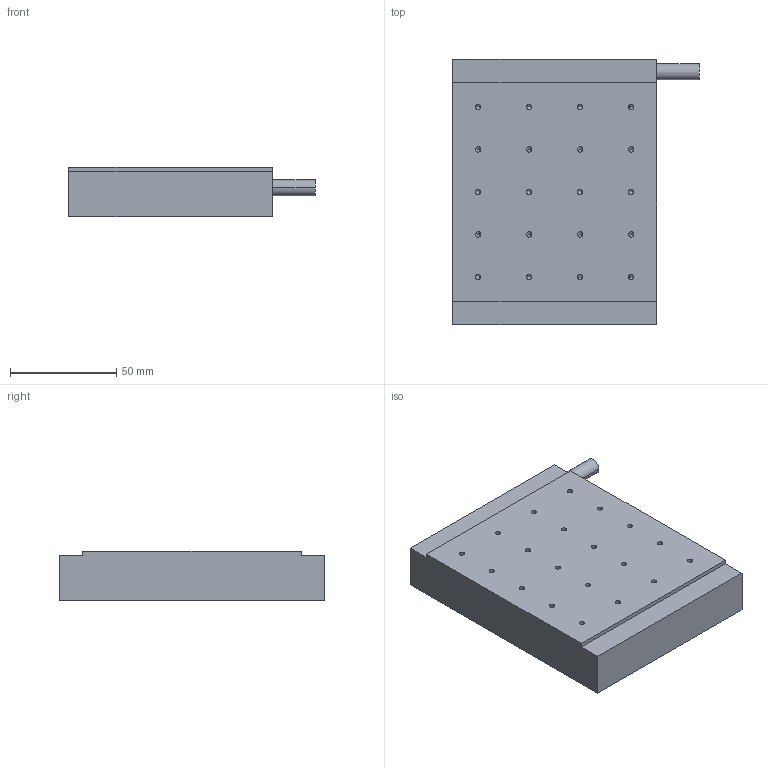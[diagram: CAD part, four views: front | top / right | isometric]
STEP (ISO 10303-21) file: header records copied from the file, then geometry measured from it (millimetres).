
FILE_DESCRIPTION (( 'STEP AP214' ), '1' );
FILE_NAME ('B-CJM100B-02.STEP', '2025-09-05T11:29:53', ( '' ), ( '' ), 'SwSTEP 2.0', 'SolidWorks 2016', '' );
FILE_SCHEMA (( 'AUTOMOTIVE_DESIGN' ));
Length unit declared in the file: millimetre
Products named in the file (1): B-CJM100B-02
Bounding box: 116 x 125 x 23.2 mm (x, y, z)
Volume: 274309.2 mm3; surface area: 35838.6 mm2
Topology: 1 solids, 1 shells, 117 faces, 286 edges, 148 vertices
Faces by surface type: cone 56, cylinder 50, plane 11
Entity records: 3582 total; most frequent: DIRECTION 582, CARTESIAN_POINT 504, ORIENTED_EDGE 476, EDGE_CURVE 238, AXIS2_PLACEMENT_3D 226, VERTEX_POINT 148, EDGE_LOOP 142, LINE 130
